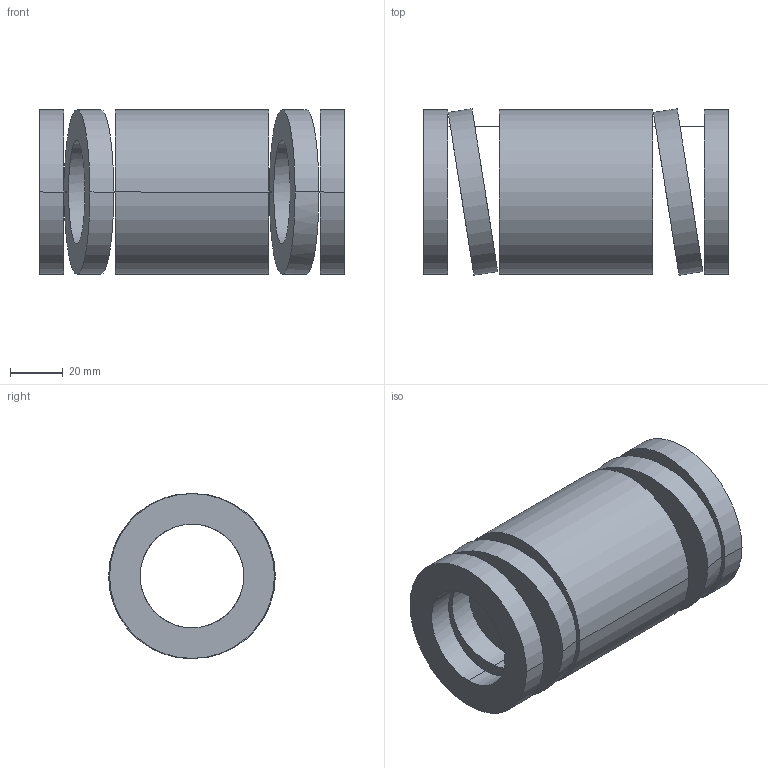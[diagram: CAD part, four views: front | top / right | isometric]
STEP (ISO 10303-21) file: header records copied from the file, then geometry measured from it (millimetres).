
FILE_DESCRIPTION(('CATIA V5 STEP Exchange'),'2;1');
FILE_NAME('C:\Users\Utente\Desktop\IO LAVORO\3D X SITO CF\X SITO\3D files 392B\392-B63-115.stp','2021-08-13T11:58:06+00:00',('none'),('none'),'CATIA Version 5 Release 20 GA (IN-10)','CATIA V5 STEP AP203','none');
FILE_SCHEMA(('CONFIG_CONTROL_DESIGN'));
Length unit declared in the file: millimetre
Products named in the file (1): 392-B63-115
Bounding box: 115 x 62.86 x 62.2 mm (x, y, z)
Volume: 172788.4 mm3; surface area: 48394.9 mm2
Topology: 1 solids, 1 shells, 38 faces, 92 edges, 64 vertices
Faces by surface type: cylinder 28, plane 10
Entity records: 1578 total; most frequent: CARTESIAN_POINT 691, ORIENTED_EDGE 184, DIRECTION 128, EDGE_CURVE 92, VERTEX_POINT 64, AXIS2_PLACEMENT_3D 63, EDGE_LOOP 56, B_SPLINE_CURVE_WITH_KNOTS 40
